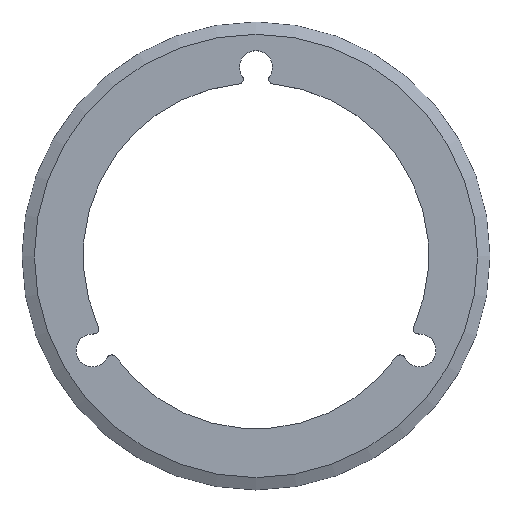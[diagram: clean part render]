
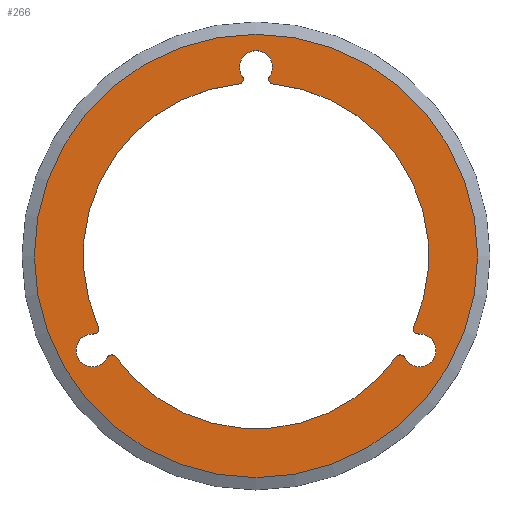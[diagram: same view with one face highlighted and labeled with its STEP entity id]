
A CAD part, top view. The second image highlights one B-rep face of the part: STEP entity #266.
In plain terms, the highlighted planar face has unit normal (0, 0, 1).
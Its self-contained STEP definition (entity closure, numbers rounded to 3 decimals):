
#13=PLANE('',#301);
#51=ORIENTED_EDGE('',*,*,#129,.T.);
#52=ORIENTED_EDGE('',*,*,#130,.F.);
#53=ORIENTED_EDGE('',*,*,#128,.F.);
#54=ORIENTED_EDGE('',*,*,#131,.F.);
#55=ORIENTED_EDGE('',*,*,#132,.F.);
#56=ORIENTED_EDGE('',*,*,#133,.F.);
#57=ORIENTED_EDGE('',*,*,#123,.F.);
#58=ORIENTED_EDGE('',*,*,#134,.F.);
#59=ORIENTED_EDGE('',*,*,#135,.F.);
#60=ORIENTED_EDGE('',*,*,#136,.F.);
#61=ORIENTED_EDGE('',*,*,#119,.F.);
#62=ORIENTED_EDGE('',*,*,#137,.F.);
#63=ORIENTED_EDGE('',*,*,#138,.F.);
#119=EDGE_CURVE('',#158,#159,#184,.T.);
#123=EDGE_CURVE('',#162,#163,#186,.T.);
#128=EDGE_CURVE('',#167,#165,#188,.T.);
#129=EDGE_CURVE('',#168,#168,#189,.T.);
#130=EDGE_CURVE('',#165,#169,#190,.F.);
#131=EDGE_CURVE('',#170,#167,#191,.F.);
#132=EDGE_CURVE('',#171,#170,#192,.T.);
#133=EDGE_CURVE('',#163,#171,#193,.F.);
#134=EDGE_CURVE('',#172,#162,#194,.F.);
#135=EDGE_CURVE('',#173,#172,#195,.T.);
#136=EDGE_CURVE('',#159,#173,#196,.F.);
#137=EDGE_CURVE('',#174,#158,#197,.F.);
#138=EDGE_CURVE('',#169,#174,#198,.T.);
#158=VERTEX_POINT('',#441);
#159=VERTEX_POINT('',#443);
#162=VERTEX_POINT('',#450);
#163=VERTEX_POINT('',#452);
#165=VERTEX_POINT('',#457);
#167=VERTEX_POINT('',#461);
#168=VERTEX_POINT('',#465);
#169=VERTEX_POINT('',#467);
#170=VERTEX_POINT('',#469);
#171=VERTEX_POINT('',#471);
#172=VERTEX_POINT('',#474);
#173=VERTEX_POINT('',#476);
#174=VERTEX_POINT('',#479);
#184=CIRCLE('',#294,21.05);
#186=CIRCLE('',#297,21.05);
#188=CIRCLE('',#300,21.05);
#189=CIRCLE('',#302,27.);
#190=CIRCLE('',#303,0.6);
#191=CIRCLE('',#304,0.6);
#192=CIRCLE('',#305,2.005);
#193=CIRCLE('',#306,0.6);
#194=CIRCLE('',#307,0.6);
#195=CIRCLE('',#308,2.005);
#196=CIRCLE('',#309,0.6);
#197=CIRCLE('',#310,0.6);
#198=CIRCLE('',#311,2.005);
#213=EDGE_LOOP('',(#51));
#214=EDGE_LOOP('',(#52,#53,#54,#55,#56,#57,#58,#59,#60,#61,#62,#63));
#233=FACE_BOUND('',#213,.T.);
#234=FACE_BOUND('',#214,.T.);
#266=ADVANCED_FACE('',(#233,#234),#13,.T.);
#294=AXIS2_PLACEMENT_3D('',#442,#342,#343);
#297=AXIS2_PLACEMENT_3D('',#451,#350,#351);
#300=AXIS2_PLACEMENT_3D('',#462,#359,#360);
#301=AXIS2_PLACEMENT_3D('',#463,#361,#362);
#302=AXIS2_PLACEMENT_3D('',#464,#363,#364);
#303=AXIS2_PLACEMENT_3D('',#466,#365,#366);
#304=AXIS2_PLACEMENT_3D('',#468,#367,#368);
#305=AXIS2_PLACEMENT_3D('',#470,#369,#370);
#306=AXIS2_PLACEMENT_3D('',#472,#371,#372);
#307=AXIS2_PLACEMENT_3D('',#473,#373,#374);
#308=AXIS2_PLACEMENT_3D('',#475,#375,#376);
#309=AXIS2_PLACEMENT_3D('',#477,#377,#378);
#310=AXIS2_PLACEMENT_3D('',#478,#379,#380);
#311=AXIS2_PLACEMENT_3D('',#480,#381,#382);
#342=DIRECTION('',(0.,0.,1.));
#343=DIRECTION('',(1.,0.,0.));
#350=DIRECTION('',(0.,0.,1.));
#351=DIRECTION('',(1.,0.,0.));
#359=DIRECTION('',(0.,0.,1.));
#360=DIRECTION('',(1.,0.,0.));
#361=DIRECTION('',(0.,0.,1.));
#362=DIRECTION('',(1.,0.,0.));
#363=DIRECTION('',(0.,0.,1.));
#364=DIRECTION('',(1.,0.,0.));
#365=DIRECTION('',(0.,0.,1.));
#366=DIRECTION('',(1.,0.,0.));
#367=DIRECTION('',(0.,0.,1.));
#368=DIRECTION('',(1.,0.,0.));
#369=DIRECTION('',(0.,0.,1.));
#370=DIRECTION('',(1.,0.,0.));
#371=DIRECTION('',(0.,0.,1.));
#372=DIRECTION('',(1.,0.,0.));
#373=DIRECTION('',(0.,0.,1.));
#374=DIRECTION('',(1.,0.,0.));
#375=DIRECTION('',(0.,0.,1.));
#376=DIRECTION('',(1.,0.,0.));
#377=DIRECTION('',(0.,0.,1.));
#378=DIRECTION('',(1.,0.,0.));
#379=DIRECTION('',(0.,0.,1.));
#380=DIRECTION('',(1.,0.,0.));
#381=DIRECTION('',(0.,0.,1.));
#382=DIRECTION('',(1.,0.,0.));
#441=CARTESIAN_POINT('',(19.188,-8.655,1.5));
#442=CARTESIAN_POINT('',(0.,0.,1.5));
#443=CARTESIAN_POINT('',(2.099,20.945,1.5));
#450=CARTESIAN_POINT('',(-2.099,20.945,1.5));
#451=CARTESIAN_POINT('',(0.,0.,1.5));
#452=CARTESIAN_POINT('',(-19.188,-8.655,1.5));
#457=CARTESIAN_POINT('',(17.089,-12.29,1.5));
#461=CARTESIAN_POINT('',(-17.089,-12.29,1.5));
#462=CARTESIAN_POINT('',(0.,0.,1.5));
#463=CARTESIAN_POINT('',(0.,0.,1.5));
#464=CARTESIAN_POINT('',(0.,0.,1.5));
#465=CARTESIAN_POINT('',(27.,0.,1.5));
#466=CARTESIAN_POINT('',(17.577,-12.641,1.5));
#467=CARTESIAN_POINT('',(18.116,-12.378,1.5));
#468=CARTESIAN_POINT('',(-17.577,-12.641,1.5));
#469=CARTESIAN_POINT('',(-18.116,-12.378,1.5));
#470=CARTESIAN_POINT('',(-19.919,-11.5,1.5));
#471=CARTESIAN_POINT('',(-19.778,-9.5,1.5));
#472=CARTESIAN_POINT('',(-19.735,-8.901,1.5));
#473=CARTESIAN_POINT('',(-2.159,21.542,1.5));
#474=CARTESIAN_POINT('',(-1.662,21.878,1.5));
#475=CARTESIAN_POINT('',(0.,23.,1.5));
#476=CARTESIAN_POINT('',(1.662,21.878,1.5));
#477=CARTESIAN_POINT('',(2.159,21.542,1.5));
#478=CARTESIAN_POINT('',(19.735,-8.901,1.5));
#479=CARTESIAN_POINT('',(19.778,-9.5,1.5));
#480=CARTESIAN_POINT('',(19.919,-11.5,1.5));
